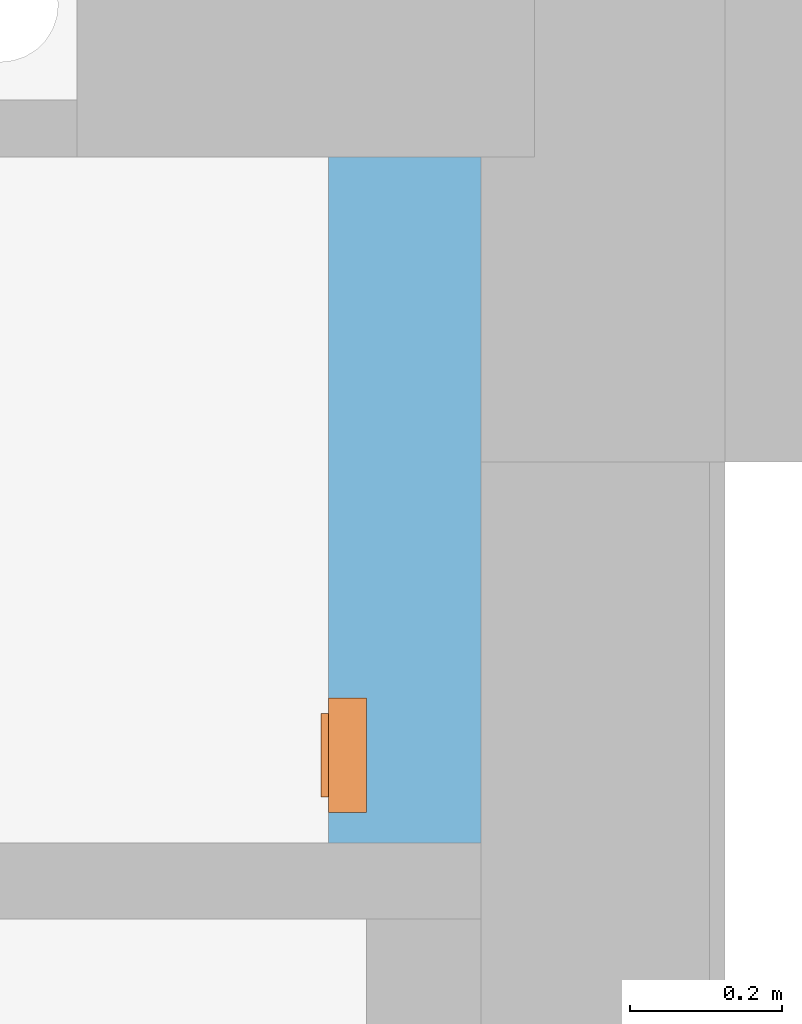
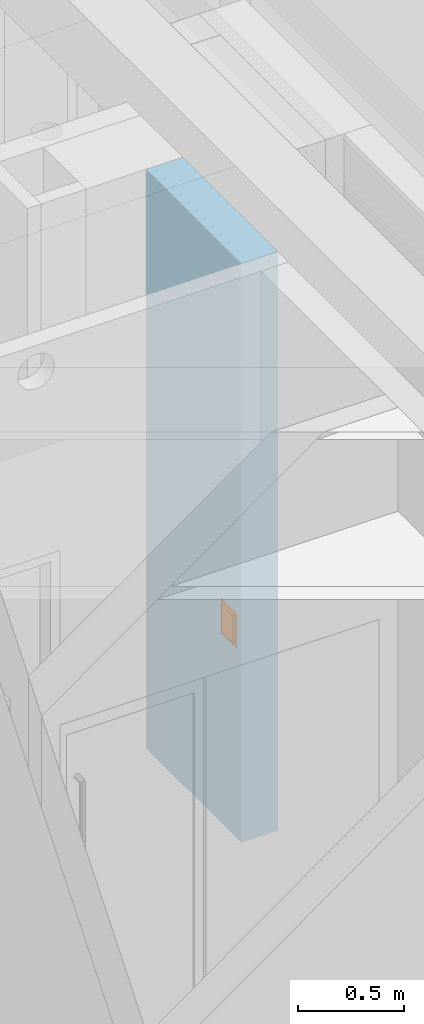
# One storey, part 126 of 140: 1 proxy, 1 opening, plus 1 element that does not belong to this part.
"""IFC4 building model written with IfcOpenShell, lengths in metres."""

from ifc_helpers import new_model, entity, si_unit, converted_unit, derived_unit, frame, frame_2d, origin, origin_with_axes, place, context, subcontext, project, spatial, polyline, rectangle, outline, extrude, faceted_brep, source, transform, mapped, material, layer, layer_set, layer_usage, element, fill, save


model = new_model("IFC4")

# Units and contexts
model_context = context("Model", 3, precision=1e-05, world=origin())
body_context = subcontext(model_context, "Body", "Model", "MODEL_VIEW")
ifc_project = project(units=[si_unit("LENGTHUNIT", "METRE"), si_unit("AREAUNIT", "SQUARE_METRE"), si_unit("VOLUMEUNIT", "CUBIC_METRE"), si_unit("MASSUNIT", "GRAM", prefix="KILO"), converted_unit("PLANEANGLEUNIT", "DEGREE", entity("IfcPlaneAngleMeasure", 0.0174532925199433), si_unit("PLANEANGLEUNIT", "RADIAN"), dimensions=[0, 0, 0, 0, 0, 0, 0]), derived_unit("THERMALTRANSMITTANCEUNIT", [(si_unit("POWERUNIT", "WATT"), 1), (si_unit("THERMODYNAMICTEMPERATUREUNIT", "KELVIN"), -1), (si_unit("LENGTHUNIT", "METRE"), -2)]), derived_unit("VOLUMETRICFLOWRATEUNIT", [(si_unit("LENGTHUNIT", "METRE"), 3), (converted_unit("TIMEUNIT", "hour", entity("IfcTimeMeasure", 3600.0), si_unit("TIMEUNIT", "SECOND"), dimensions=[0, 0, 1, 0, 0, 0, 0]), -1), (si_unit("LENGTHUNIT", "METRE"), -1)])], contexts=[model_context])

# Site, building, storey
site_placement = place(None, origin())
site = spatial("IfcSite", under=ifc_project, at=site_placement, Name="3. ASŘ", CompositionType="ELEMENT")
building_placement = place(site_placement, origin())
building = spatial("IfcBuilding", under=site, at=building_placement, Name="Pavilon C", CompositionType="ELEMENT")
storey_placement = place(building_placement, origin())
storey = spatial("IfcBuildingStorey", under=building, at=storey_placement, Name="Půdorys 1.NP", CompositionType="ELEMENT", Elevation=0.0)

# Wall, opening, proxy
ifc_material = material(Name="SDK INSTAL. PŘDSTĚNA VYSOKÁ")
ifc_layer = layer(ifc_material, 0.2)
ifc_layer_set = layer_set([ifc_layer])
ifc_layer_usage = layer_usage(ifc_layer_set, "AXIS2", "POSITIVE", 0.0)
wall_placement = place(storey_placement, frame((49.68, 25.0, -0.1), z_axis=(0.0, 0.0, 1.0), x_axis=(0.0, -1.0, 0.0)))
wall = element("IfcWall", 1, at=wall_placement, inside=storey, material=ifc_layer_usage, Name="SDK INSTAL. PŘDSTĚNA VYSOKÁ", context=body_context, shape_type="SweptSolid", body=[
    extrude(rectangle(XDim=0.9, YDim=0.2, at=frame_2d((0.45, 0.1), x_axis=(1.0, 0.0))), origin_with_axes(), (0.0, 0.0, 1.0), 3.35),
])
opening_placement = place(wall_placement, frame((0.709999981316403, 0.0, 1.1), z_axis=(0.0, 1.0, 0.0), x_axis=(0.0, 0.0, 1.0)))
opening = element("IfcOpeningElement", 2, at=opening_placement, cuts=wall, Name="Stěnová nika", ObjectType="Opening", context=body_context, shape_type="SweptSolid", body=[
    extrude(outline(polyline([(0.0, 0.15), (0.2, 0.15), (0.2, 0.0), (0.0, 0.0), (0.0, 0.15)])), origin_with_axes(), (0.0, 0.0, 1.0), 0.05),
])
shared_shape = source(origin_with_axes(), body_context, "Body", "Brep", [
    faceted_brep([(0.150000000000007, 0.0499999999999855, 0.2), (0.130000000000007, 0.0499999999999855, 0.2), (0.130000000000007, 0.0499999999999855, 0.0), (0.150000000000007, 0.0499999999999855, 0.0), (0.150000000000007, -1.45519152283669e-14, 0.0), (0.130000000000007, -1.45519152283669e-14, 0.0), (0.130000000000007, -1.45519152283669e-14, 0.2), (0.150000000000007, -1.45519152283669e-14, 0.2)], [[[0, 1, 2, 3]], [[4, 5, 6, 7]], [[3, 4, 7, 0]], [[2, 5, 4, 3]], [[1, 6, 5, 2]], [[0, 7, 6, 1]]], orient=[[False], [False], [False], [False], [False], [False]]),
    faceted_brep([(0.0200000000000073, 0.0499999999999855, 0.2), (7.27595761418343e-15, 0.0499999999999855, 0.2), (7.27595761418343e-15, 0.0499999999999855, 0.0), (0.0200000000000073, 0.0499999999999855, 0.0), (0.0200000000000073, -1.45519152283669e-14, 0.0), (7.27595761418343e-15, -1.45519152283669e-14, 0.0), (7.27595761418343e-15, -1.45519152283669e-14, 0.2), (0.0200000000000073, -1.45519152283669e-14, 0.2)], [[[0, 1, 2, 3]], [[4, 5, 6, 7]], [[3, 4, 7, 0]], [[2, 5, 4, 3]], [[1, 6, 5, 2]], [[0, 7, 6, 1]]], orient=[[False], [False], [False], [False], [False], [False]]),
    faceted_brep([(0.130000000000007, 0.0499999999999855, 0.02), (0.0200000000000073, 0.0499999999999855, 0.02), (0.0200000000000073, 0.0499999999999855, 0.0), (0.130000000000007, 0.0499999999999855, 0.0), (0.130000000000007, -1.45519152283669e-14, 0.0), (0.0200000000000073, -1.45519152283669e-14, 0.0), (0.0200000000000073, -1.45519152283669e-14, 0.02), (0.130000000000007, -1.45519152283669e-14, 0.02)], [[[0, 1, 2, 3]], [[4, 5, 6, 7]], [[3, 4, 7, 0]], [[2, 5, 4, 3]], [[1, 6, 5, 2]], [[0, 7, 6, 1]]], orient=[[False], [False], [False], [False], [False], [False]]),
    faceted_brep([(0.130000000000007, 0.0499999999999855, 0.2), (0.0200000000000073, 0.0499999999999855, 0.2), (0.0200000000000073, 0.0499999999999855, 0.18), (0.130000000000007, 0.0499999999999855, 0.18), (0.130000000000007, -1.45519152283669e-14, 0.18), (0.0200000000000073, -1.45519152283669e-14, 0.18), (0.0200000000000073, -1.45519152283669e-14, 0.2), (0.130000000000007, -1.45519152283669e-14, 0.2)], [[[0, 1, 2, 3]], [[4, 5, 6, 7]], [[3, 4, 7, 0]], [[2, 5, 4, 3]], [[1, 6, 5, 2]], [[0, 7, 6, 1]]], orient=[[False], [False], [False], [False], [False], [False]]),
    faceted_brep([(0.130000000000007, -1.45519152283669e-14, 0.18), (0.0200000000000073, -1.45519152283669e-14, 0.18), (0.0200000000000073, -1.45519152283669e-14, 0.02), (0.130000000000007, -1.45519152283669e-14, 0.02), (0.130000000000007, -0.0100000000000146, 0.02), (0.0200000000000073, -0.0100000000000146, 0.02), (0.0200000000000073, -0.0100000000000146, 0.18), (0.130000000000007, -0.0100000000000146, 0.18)], [[[0, 1, 2, 3]], [[4, 5, 6, 7]], [[3, 4, 7, 0]], [[2, 5, 4, 3]], [[1, 6, 5, 2]], [[0, 7, 6, 1]]], orient=[[False], [False], [False], [False], [False], [False]]),
])
proxy_placement = place(opening_placement, frame((0.0, 0.0, 0.0), z_axis=(1.0, 0.0, 0.0), x_axis=(0.0, 1.0, 0.0)))
proxy = element("IfcBuildingElementProxy", 3, at=proxy_placement, inside=storey, Name="I.Z6", context=body_context, shape_type="MappedRepresentation", body=[
    mapped(shared_shape, transform((0.0, 0.0, 0.0), x_axis=(1.0, 0.0, 0.0), y_axis=(0.0, 1.0, 0.0), z_axis=(0.0, 0.0, 1.0), scale=1.0)),
])
fill(opening, proxy)

save(model, "model.ifc")
